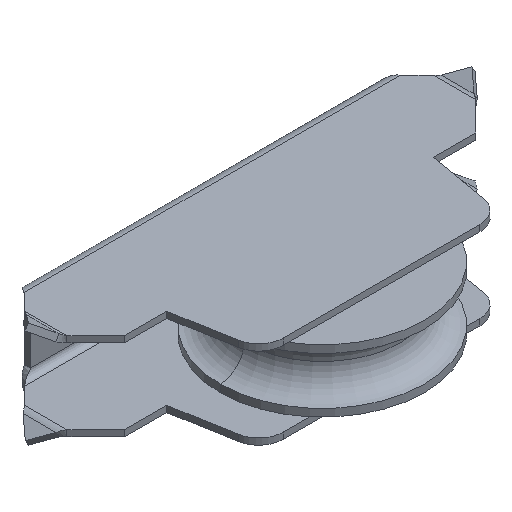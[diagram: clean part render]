
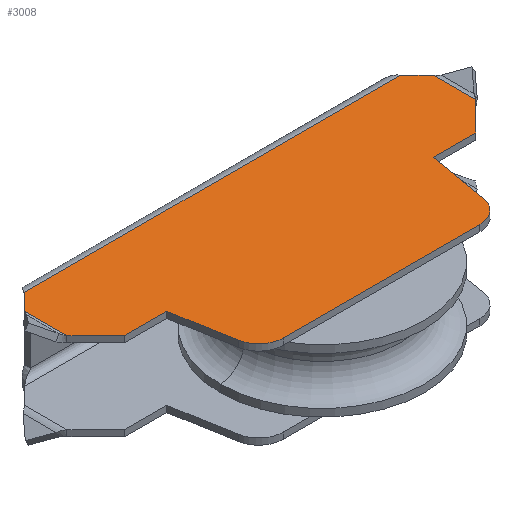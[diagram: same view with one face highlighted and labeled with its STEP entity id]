
A CAD part, isometric view. The second image highlights one B-rep face of the part: STEP entity #3008.
In plain terms, the highlighted planar face has unit normal (0, 0, 1).
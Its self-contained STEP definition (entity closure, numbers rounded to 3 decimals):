
#11 = EDGE_CURVE ( 'NONE', #2872, #925, #128, .T. ) ;
#19 = CARTESIAN_POINT ( 'NONE',  ( 16.312, 3.25, 0.5 ) ) ;
#68 = CARTESIAN_POINT ( 'NONE',  ( -7.822, -7.25, 0.5 ) ) ;
#72 = CARTESIAN_POINT ( 'NONE',  ( 15., 6.25, 0.5 ) ) ;
#73 = EDGE_CURVE ( 'NONE', #1746, #915, #466, .T. ) ;
#104 = EDGE_CURVE ( 'NONE', #478, #925, #213, .T. ) ;
#128 = LINE ( 'NONE', #420, #1362 ) ;
#142 = PLANE ( 'NONE',  #183 ) ;
#158 = FACE_OUTER_BOUND ( 'NONE', #2511, .T. ) ;
#161 = VERTEX_POINT ( 'NONE', #1907 ) ;
#170 = EDGE_CURVE ( 'NONE', #606, #2887, #753, .T. ) ;
#183 = AXIS2_PLACEMENT_3D ( 'NONE', #1159, #640, #1610 ) ;
#191 = EDGE_CURVE ( 'NONE', #161, #1598, #2210, .T. ) ;
#195 = DIRECTION ( 'NONE',  ( -1., 0., 0. ) ) ;
#196 = VECTOR ( 'NONE', #2619, 1000. ) ;
#201 = EDGE_CURVE ( 'NONE', #3087, #1821, #1920, .T. ) ;
#213 = LINE ( 'NONE', #2906, #1312 ) ;
#263 = CARTESIAN_POINT ( 'NONE',  ( 16.312, 1.562, 0.5 ) ) ;
#276 = EDGE_CURVE ( 'NONE', #1821, #161, #831, .T. ) ;
#320 = CARTESIAN_POINT ( 'NONE',  ( -12.323, -0.75, 0.5 ) ) ;
#339 = DIRECTION ( 'NONE',  ( -1., 0., 0. ) ) ;
#344 = LINE ( 'NONE', #2718, #2575 ) ;
#401 = CARTESIAN_POINT ( 'NONE',  ( 16.312, 4.938, 0.5 ) ) ;
#420 = CARTESIAN_POINT ( 'NONE',  ( -15.656, 5.594, 0.5 ) ) ;
#433 = ORIENTED_EDGE ( 'NONE', *, *, #73, .F. ) ;
#466 = LINE ( 'NONE', #2427, #1615 ) ;
#478 = VERTEX_POINT ( 'NONE', #72 ) ;
#496 = CARTESIAN_POINT ( 'NONE',  ( 9.791, -5.597, 0.5 ) ) ;
#548 = CARTESIAN_POINT ( 'NONE',  ( -16.312, 4.938, 0.5 ) ) ;
#556 = DIRECTION ( 'NONE',  ( 0., 0., -1. ) ) ;
#605 = EDGE_CURVE ( 'NONE', #478, #1047, #344, .T. ) ;
#606 = VERTEX_POINT ( 'NONE', #1818 ) ;
#621 = CARTESIAN_POINT ( 'NONE',  ( 12.323, -0.75, 0.5 ) ) ;
#631 = AXIS2_PLACEMENT_3D ( 'NONE', #1595, #1162, #2115 ) ;
#640 = DIRECTION ( 'NONE',  ( 0., 0., 1. ) ) ;
#694 = EDGE_CURVE ( 'NONE', #2872, #1598, #2606, .T. ) ;
#753 = LINE ( 'NONE', #1249, #2879 ) ;
#831 = LINE ( 'NONE', #320, #1965 ) ;
#908 = EDGE_CURVE ( 'NONE', #1746, #1047, #1469, .T. ) ;
#915 = VERTEX_POINT ( 'NONE', #2650 ) ;
#925 = VERTEX_POINT ( 'NONE', #2211 ) ;
#927 = DIRECTION ( 'NONE',  ( -0.707, 0.707, 0. ) ) ;
#949 = ORIENTED_EDGE ( 'NONE', *, *, #170, .F. ) ;
#953 = CARTESIAN_POINT ( 'NONE',  ( 10.219, -3.174, 0.5 ) ) ;
#975 = VERTEX_POINT ( 'NONE', #496 ) ;
#1002 = ORIENTED_EDGE ( 'NONE', *, *, #694, .T. ) ;
#1005 = VECTOR ( 'NONE', #927, 1000. ) ;
#1030 = ORIENTED_EDGE ( 'NONE', *, *, #276, .F. ) ;
#1047 = VERTEX_POINT ( 'NONE', #401 ) ;
#1159 = CARTESIAN_POINT ( 'NONE',  ( -16.312, -7.25, 0.5 ) ) ;
#1162 = DIRECTION ( 'NONE',  ( 0., 0., -1. ) ) ;
#1174 = DIRECTION ( 'NONE',  ( 0., -1., 0. ) ) ;
#1249 = CARTESIAN_POINT ( 'NONE',  ( 0., -7.25, 0.5 ) ) ;
#1262 = CARTESIAN_POINT ( 'NONE',  ( 7.822, -5.25, 0.5 ) ) ;
#1312 = VECTOR ( 'NONE', #2142, 1000. ) ;
#1362 = VECTOR ( 'NONE', #2112, 1000. ) ;
#1399 = CIRCLE ( 'NONE', #2203, 2. ) ;
#1469 = LINE ( 'NONE', #19, #2169 ) ;
#1540 = DIRECTION ( 'NONE',  ( 0.985, -0.174, 0. ) ) ;
#1595 = CARTESIAN_POINT ( 'NONE',  ( -7.822, -5.25, 0.5 ) ) ;
#1596 = EDGE_CURVE ( 'NONE', #2887, #3087, #2250, .T. ) ;
#1598 = VERTEX_POINT ( 'NONE', #2846 ) ;
#1610 = DIRECTION ( 'NONE',  ( 1., 0., 0. ) ) ;
#1615 = VECTOR ( 'NONE', #2409, 1000. ) ;
#1667 = DIRECTION ( 'NONE',  ( -0.174, -0.985, 0. ) ) ;
#1721 = DIRECTION ( 'NONE',  ( -1., 0., 0. ) ) ;
#1746 = VERTEX_POINT ( 'NONE', #263 ) ;
#1803 = ORIENTED_EDGE ( 'NONE', *, *, #605, .F. ) ;
#1817 = EDGE_CURVE ( 'NONE', #915, #1972, #2313, .T. ) ;
#1818 = CARTESIAN_POINT ( 'NONE',  ( 7.822, -7.25, 0.5 ) ) ;
#1819 = ORIENTED_EDGE ( 'NONE', *, *, #2356, .F. ) ;
#1821 = VERTEX_POINT ( 'NONE', #3096 ) ;
#1867 = VECTOR ( 'NONE', #1174, 1000. ) ;
#1875 = ORIENTED_EDGE ( 'NONE', *, *, #191, .F. ) ;
#1891 = CARTESIAN_POINT ( 'NONE',  ( -10.219, -3.174, 0.5 ) ) ;
#1907 = CARTESIAN_POINT ( 'NONE',  ( -14., -0.75, 0.5 ) ) ;
#1920 = LINE ( 'NONE', #1891, #196 ) ;
#1965 = VECTOR ( 'NONE', #339, 1000. ) ;
#1972 = VERTEX_POINT ( 'NONE', #2888 ) ;
#2085 = EDGE_CURVE ( 'NONE', #975, #606, #1399, .T. ) ;
#2112 = DIRECTION ( 'NONE',  ( 0.707, 0.707, 0. ) ) ;
#2115 = DIRECTION ( 'NONE',  ( 0., -1., 0. ) ) ;
#2142 = DIRECTION ( 'NONE',  ( -1., 0., 0. ) ) ;
#2160 = CARTESIAN_POINT ( 'NONE',  ( -15.156, 0.406, 0.5 ) ) ;
#2169 = VECTOR ( 'NONE', #2892, 1000. ) ;
#2203 = AXIS2_PLACEMENT_3D ( 'NONE', #1262, #556, #1540 ) ;
#2210 = LINE ( 'NONE', #2160, #1005 ) ;
#2211 = CARTESIAN_POINT ( 'NONE',  ( -15., 6.25, 0.5 ) ) ;
#2250 = CIRCLE ( 'NONE', #631, 2. ) ;
#2285 = DIRECTION ( 'NONE',  ( 0.707, -0.707, 0. ) ) ;
#2313 = LINE ( 'NONE', #621, #2961 ) ;
#2356 = EDGE_CURVE ( 'NONE', #1972, #975, #2386, .T. ) ;
#2386 = LINE ( 'NONE', #953, #2758 ) ;
#2409 = DIRECTION ( 'NONE',  ( -0.707, -0.707, 0. ) ) ;
#2427 = CARTESIAN_POINT ( 'NONE',  ( 15.156, 0.406, 0.5 ) ) ;
#2511 = EDGE_LOOP ( 'NONE', ( #1002, #1875, #1030, #2818, #2664, #949, #2881, #1819, #2908, #433, #2686, #1803, #2860, #2587 ) ) ;
#2558 = CARTESIAN_POINT ( 'NONE',  ( -16.312, 3.25, 0.5 ) ) ;
#2575 = VECTOR ( 'NONE', #2285, 1000. ) ;
#2587 = ORIENTED_EDGE ( 'NONE', *, *, #11, .F. ) ;
#2606 = LINE ( 'NONE', #2558, #1867 ) ;
#2619 = DIRECTION ( 'NONE',  ( -0.174, 0.985, 0. ) ) ;
#2650 = CARTESIAN_POINT ( 'NONE',  ( 14., -0.75, 0.5 ) ) ;
#2664 = ORIENTED_EDGE ( 'NONE', *, *, #1596, .F. ) ;
#2686 = ORIENTED_EDGE ( 'NONE', *, *, #908, .T. ) ;
#2718 = CARTESIAN_POINT ( 'NONE',  ( 15.656, 5.594, 0.5 ) ) ;
#2758 = VECTOR ( 'NONE', #1667, 1000. ) ;
#2792 = CARTESIAN_POINT ( 'NONE',  ( -9.791, -5.597, 0.5 ) ) ;
#2818 = ORIENTED_EDGE ( 'NONE', *, *, #201, .F. ) ;
#2846 = CARTESIAN_POINT ( 'NONE',  ( -16.312, 1.562, 0.5 ) ) ;
#2860 = ORIENTED_EDGE ( 'NONE', *, *, #104, .T. ) ;
#2872 = VERTEX_POINT ( 'NONE', #548 ) ;
#2879 = VECTOR ( 'NONE', #1721, 1000. ) ;
#2881 = ORIENTED_EDGE ( 'NONE', *, *, #2085, .F. ) ;
#2887 = VERTEX_POINT ( 'NONE', #68 ) ;
#2888 = CARTESIAN_POINT ( 'NONE',  ( 10.646, -0.75, 0.5 ) ) ;
#2892 = DIRECTION ( 'NONE',  ( 0., 1., 0. ) ) ;
#2906 = CARTESIAN_POINT ( 'NONE',  ( 0., 6.25, 0.5 ) ) ;
#2908 = ORIENTED_EDGE ( 'NONE', *, *, #1817, .F. ) ;
#2961 = VECTOR ( 'NONE', #195, 1000. ) ;
#3008 = ADVANCED_FACE ( 'NONE', ( #158 ), #142, .T. ) ;
#3087 = VERTEX_POINT ( 'NONE', #2792 ) ;
#3096 = CARTESIAN_POINT ( 'NONE',  ( -10.646, -0.75, 0.5 ) ) ;
